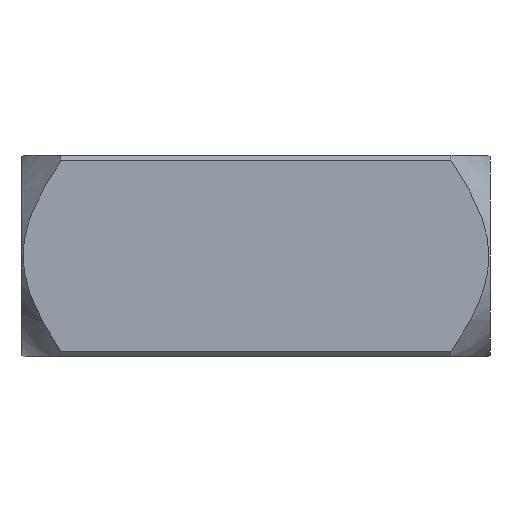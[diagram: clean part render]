
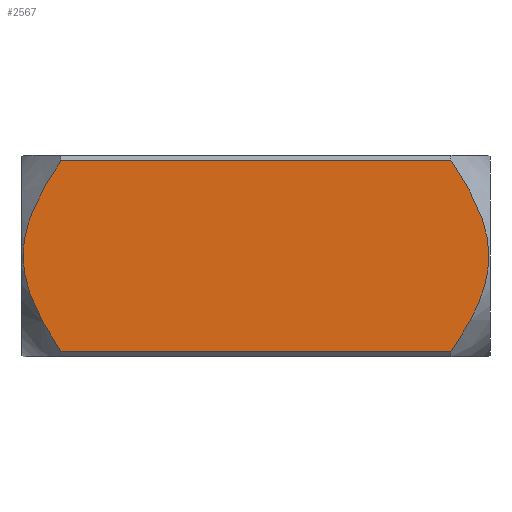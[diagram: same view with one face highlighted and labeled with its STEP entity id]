
A CAD part, front view. The second image highlights one B-rep face of the part: STEP entity #2567.
In plain terms, the highlighted planar face has unit normal (0, -1, 0).
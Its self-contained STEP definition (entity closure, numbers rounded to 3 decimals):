
#1019 = CARTESIAN_POINT ( 'NONE',  ( 7.438, -22., 19.215 ) ) ;
#1120 = CARTESIAN_POINT ( 'NONE',  ( 100.808, -22., 6.568 ) ) ;
#1324 = CARTESIAN_POINT ( 'NONE',  ( 0.547, -22., -3.747 ) ) ;
#1456 = CARTESIAN_POINT ( 'NONE',  ( 4.963, -22., -15.167 ) ) ;
#1555 = CARTESIAN_POINT ( 'NONE',  ( 93.5, -22., -20.762 ) ) ;
#2227 = ORIENTED_EDGE ( 'NONE', *, *, #27391, .T. ) ;
#2567 = ADVANCED_FACE ( 'NONE', ( #3415 ), #34971, .T. ) ;
#3415 = FACE_OUTER_BOUND ( 'NONE', #7187, .T. ) ;
#4070 = CARTESIAN_POINT ( 'NONE',  ( 7.433, -22., -19.207 ) ) ;
#4532 = CARTESIAN_POINT ( 'NONE',  ( 0.31, -22., -1.874 ) ) ;
#4639 = CARTESIAN_POINT ( 'NONE',  ( 98.406, -22., -12.676 ) ) ;
#4685 = CARTESIAN_POINT ( 'NONE',  ( 0.735, -22., 4.732 ) ) ;
#4780 = CARTESIAN_POINT ( 'NONE',  ( 101.673, -22., 1.904 ) ) ;
#4832 = CARTESIAN_POINT ( 'NONE',  ( 6.419, -22., 17.641 ) ) ;
#6646 = CARTESIAN_POINT ( 'NONE',  ( 0., -22., 20.762 ) ) ;
#7187 = EDGE_LOOP ( 'NONE', ( #2227, #15046, #23307, #44344 ) ) ;
#8268 = VECTOR ( 'NONE', #15411, 1000. ) ;
#8339 = CARTESIAN_POINT ( 'NONE',  ( 3.628, -22., 12.745 ) ) ;
#8436 = CARTESIAN_POINT ( 'NONE',  ( 101.734, -22., 0.956 ) ) ;
#8480 = CARTESIAN_POINT ( 'NONE',  ( 0.373, -22., 2.381 ) ) ;
#11331 = AXIS2_PLACEMENT_3D ( 'NONE', #20901, #17362, #45418 ) ;
#11358 = CARTESIAN_POINT ( 'NONE',  ( 8.5, -22., 20.762 ) ) ;
#11807 = CARTESIAN_POINT ( 'NONE',  ( 4.514, -22., 14.406 ) ) ;
#11897 = CARTESIAN_POINT ( 'NONE',  ( 101.264, -22., 4.732 ) ) ;
#12047 = LINE ( 'NONE', #14950, #8268 ) ;
#12063 = CARTESIAN_POINT ( 'NONE',  ( 99.941, -22., -9.233 ) ) ;
#13720 = EDGE_CURVE ( 'NONE', #38351, #44488, #29121, .T. ) ;
#14950 = CARTESIAN_POINT ( 'NONE',  ( 0., -22., -20.762 ) ) ;
#14980 = CARTESIAN_POINT ( 'NONE',  ( 99.535, -22., 10.146 ) ) ;
#15046 = ORIENTED_EDGE ( 'NONE', *, *, #20090, .F. ) ;
#15332 = CARTESIAN_POINT ( 'NONE',  ( 0.25, -22., 0.482 ) ) ;
#15411 = DIRECTION ( 'NONE',  ( 1., 0., 0. ) ) ;
#15441 = CARTESIAN_POINT ( 'NONE',  ( 101.75, -22., 0.483 ) ) ;
#15485 = CARTESIAN_POINT ( 'NONE',  ( 0.25, -22., -0.934 ) ) ;
#15580 = CARTESIAN_POINT ( 'NONE',  ( 101.75, -22., -0.934 ) ) ;
#16973 = VECTOR ( 'NONE', #34901, 1000. ) ;
#17362 = DIRECTION ( 'NONE',  ( 0., -1., 0. ) ) ;
#18094 = CARTESIAN_POINT ( 'NONE',  ( 6.406, -22., -17.621 ) ) ;
#18651 = CARTESIAN_POINT ( 'NONE',  ( 95.594, -22., -17.621 ) ) ;
#20090 = EDGE_CURVE ( 'NONE', #21762, #38364, #34165, .T. ) ;
#20426 = CARTESIAN_POINT ( 'NONE',  ( 93.5, -22., -20.762 ) ) ;
#20901 = CARTESIAN_POINT ( 'NONE',  ( 0., -22., 20.762 ) ) ;
#21490 = CARTESIAN_POINT ( 'NONE',  ( 8.5, -22., -20.762 ) ) ;
#21762 = VERTEX_POINT ( 'NONE', #43196 ) ;
#21944 = CARTESIAN_POINT ( 'NONE',  ( 0.327, -22., 1.904 ) ) ;
#22055 = CARTESIAN_POINT ( 'NONE',  ( 101.275, -22., -4.681 ) ) ;
#22107 = CARTESIAN_POINT ( 'NONE',  ( 0.266, -22., 0.956 ) ) ;
#22392 = CARTESIAN_POINT ( 'NONE',  ( 2.105, -22., 9.26 ) ) ;
#23307 = ORIENTED_EDGE ( 'NONE', *, *, #34786, .F. ) ;
#24098 = LINE ( 'NONE', #6646, #16973 ) ;
#25451 = CARTESIAN_POINT ( 'NONE',  ( 2.059, -22., -9.233 ) ) ;
#25697 = CARTESIAN_POINT ( 'NONE',  ( 101.444, -22., 3.801 ) ) ;
#25749 = CARTESIAN_POINT ( 'NONE',  ( 1.192, -22., 6.567 ) ) ;
#26001 = CARTESIAN_POINT ( 'NONE',  ( 101.627, -22., 2.381 ) ) ;
#27391 = EDGE_CURVE ( 'NONE', #38351, #38364, #12047, .T. ) ;
#27444 = CARTESIAN_POINT ( 'NONE',  ( 8.5, -22., -20.762 ) ) ;
#28788 = CARTESIAN_POINT ( 'NONE',  ( 1.469, -22., 7.472 ) ) ;
#29031 = CARTESIAN_POINT ( 'NONE',  ( 101.69, -22., -1.874 ) ) ;
#29121 = B_SPLINE_CURVE_WITH_KNOTS ( 'NONE', 3,
 ( #21490, #4070, #18094, #1456, #32476, #32309, #32926, #25451, #29373, #39750, #1324, #4532, #15485, #15332, #22107, #21944, #8480, #35882, #4685, #25749, #28788, #22392, #36036, #8339, #11807, #4832, #1019, #11358 ),
 .UNSPECIFIED., .F., .F.,
 ( 4, 2, 2, 2, 2, 2, 2, 2, 2, 2, 2, 2, 2, 4 ),
 ( 0.026, 0.032, 0.034, 0.037, 0.043, 0.046, 0.049, 0.05, 0.051, 0.054, 0.057, 0.06, 0.065, 0.071 ),
 .UNSPECIFIED. ) ;
#29183 = CARTESIAN_POINT ( 'NONE',  ( 98.372, -22., 12.745 ) ) ;
#29323 = CARTESIAN_POINT ( 'NONE',  ( 95.581, -22., 17.641 ) ) ;
#29373 = CARTESIAN_POINT ( 'NONE',  ( 1.411, -22., -7.461 ) ) ;
#32309 = CARTESIAN_POINT ( 'NONE',  ( 3.624, -22., -12.663 ) ) ;
#32476 = CARTESIAN_POINT ( 'NONE',  ( 4.5, -22., -14.339 ) ) ;
#32719 = CARTESIAN_POINT ( 'NONE',  ( 94.567, -22., -19.207 ) ) ;
#32874 = CARTESIAN_POINT ( 'NONE',  ( 100.589, -22., -7.461 ) ) ;
#32926 = CARTESIAN_POINT ( 'NONE',  ( 3.21, -22., -11.815 ) ) ;
#34165 = B_SPLINE_CURVE_WITH_KNOTS ( 'NONE', 3,
 ( #39705, #36133, #29323, #36585, #29183, #14980, #39546, #43067, #1120, #11897, #25697, #26001, #4780, #8436, #15441, #15580, #29031, #40146, #22055, #32874, #12063, #4639, #36438, #18651, #32719, #1555 ),
 .UNSPECIFIED., .F., .F.,
 ( 4, 2, 2, 2, 2, 2, 2, 2, 2, 2, 2, 2, 4 ),
 ( 0.093, 0.099, 0.105, 0.107, 0.11, 0.113, 0.114, 0.116, 0.119, 0.121, 0.127, 0.133, 0.138 ),
 .UNSPECIFIED. ) ;
#34786 = EDGE_CURVE ( 'NONE', #44488, #21762, #24098, .T. ) ;
#34901 = DIRECTION ( 'NONE',  ( 1., 0., 0. ) ) ;
#34971 = PLANE ( 'NONE',  #11331 ) ;
#35882 = CARTESIAN_POINT ( 'NONE',  ( 0.556, -22., 3.8 ) ) ;
#36036 = CARTESIAN_POINT ( 'NONE',  ( 2.465, -22., 10.146 ) ) ;
#36133 = CARTESIAN_POINT ( 'NONE',  ( 94.562, -22., 19.215 ) ) ;
#36438 = CARTESIAN_POINT ( 'NONE',  ( 97.518, -22., -14.349 ) ) ;
#36585 = CARTESIAN_POINT ( 'NONE',  ( 97.486, -22., 14.406 ) ) ;
#38351 = VERTEX_POINT ( 'NONE', #27444 ) ;
#38364 = VERTEX_POINT ( 'NONE', #20426 ) ;
#39546 = CARTESIAN_POINT ( 'NONE',  ( 99.895, -22., 9.26 ) ) ;
#39705 = CARTESIAN_POINT ( 'NONE',  ( 93.5, -22., 20.762 ) ) ;
#39750 = CARTESIAN_POINT ( 'NONE',  ( 0.725, -22., -4.681 ) ) ;
#40146 = CARTESIAN_POINT ( 'NONE',  ( 101.453, -22., -3.746 ) ) ;
#43067 = CARTESIAN_POINT ( 'NONE',  ( 100.531, -22., 7.472 ) ) ;
#43196 = CARTESIAN_POINT ( 'NONE',  ( 93.5, -22., 20.762 ) ) ;
#43816 = CARTESIAN_POINT ( 'NONE',  ( 8.5, -22., 20.762 ) ) ;
#44344 = ORIENTED_EDGE ( 'NONE', *, *, #13720, .F. ) ;
#44488 = VERTEX_POINT ( 'NONE', #43816 ) ;
#45418 = DIRECTION ( 'NONE',  ( 0., 0., -1. ) ) ;
